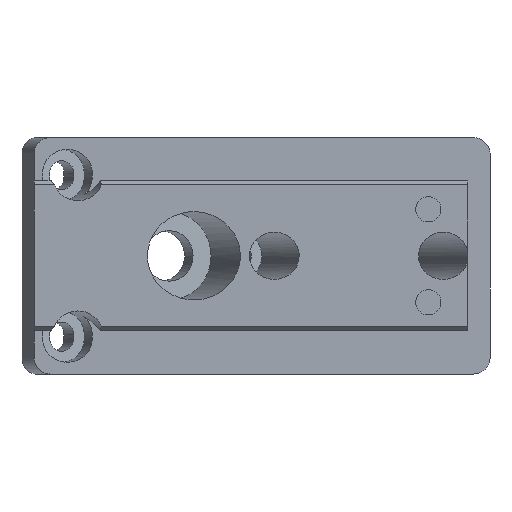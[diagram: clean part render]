
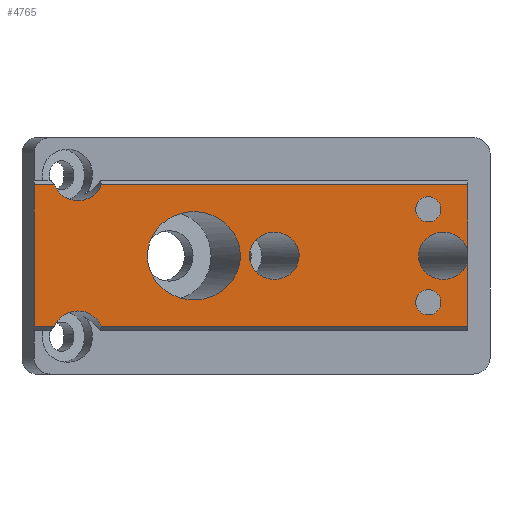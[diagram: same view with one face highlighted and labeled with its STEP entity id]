
A CAD part, top view. The second image highlights one B-rep face of the part: STEP entity #4765.
In plain terms, the highlighted planar face has unit normal (0, 0, 1).
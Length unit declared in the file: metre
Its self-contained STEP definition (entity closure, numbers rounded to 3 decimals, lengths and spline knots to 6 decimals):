
#252=ELLIPSE('',#5069,0.005888,0.0056);
#253=ELLIPSE('',#5070,0.003154,0.003);
#254=ELLIPSE('',#5073,0.003154,0.003);
#255=ELLIPSE('',#5074,0.003154,0.003);
#256=ELLIPSE('',#5075,0.003154,0.003);
#343=CIRCLE('',#5071,0.0016);
#344=CIRCLE('',#5072,0.0016);
#450=ORIENTED_EDGE('',*,*,#1904,.T.);
#451=ORIENTED_EDGE('',*,*,#1905,.T.);
#452=ORIENTED_EDGE('',*,*,#1906,.T.);
#453=ORIENTED_EDGE('',*,*,#1907,.T.);
#454=ORIENTED_EDGE('',*,*,#1908,.F.);
#455=ORIENTED_EDGE('',*,*,#1909,.T.);
#456=ORIENTED_EDGE('',*,*,#1910,.F.);
#457=ORIENTED_EDGE('',*,*,#1911,.T.);
#458=ORIENTED_EDGE('',*,*,#1912,.F.);
#459=ORIENTED_EDGE('',*,*,#1913,.T.);
#460=ORIENTED_EDGE('',*,*,#1914,.T.);
#461=ORIENTED_EDGE('',*,*,#1915,.T.);
#462=ORIENTED_EDGE('',*,*,#1916,.F.);
#463=ORIENTED_EDGE('',*,*,#1917,.T.);
#1904=EDGE_CURVE('',#2631,#2631,#252,.T.);
#1905=EDGE_CURVE('',#2632,#2632,#253,.T.);
#1906=EDGE_CURVE('',#2633,#2633,#343,.T.);
#1907=EDGE_CURVE('',#2634,#2634,#344,.T.);
#1908=EDGE_CURVE('',#2635,#2636,#3101,.T.);
#1909=EDGE_CURVE('',#2635,#2637,#254,.T.);
#1910=EDGE_CURVE('',#2638,#2637,#3102,.T.);
#1911=EDGE_CURVE('',#2638,#2639,#3103,.T.);
#1912=EDGE_CURVE('',#2640,#2639,#255,.F.);
#1913=EDGE_CURVE('',#2640,#2641,#3104,.T.);
#1914=EDGE_CURVE('',#2641,#2642,#3105,.T.);
#1915=EDGE_CURVE('',#2642,#2643,#3106,.T.);
#1916=EDGE_CURVE('',#2644,#2643,#256,.F.);
#1917=EDGE_CURVE('',#2644,#2636,#3107,.T.);
#2631=VERTEX_POINT('',#6494);
#2632=VERTEX_POINT('',#6496);
#2633=VERTEX_POINT('',#6498);
#2634=VERTEX_POINT('',#6500);
#2635=VERTEX_POINT('',#6502);
#2636=VERTEX_POINT('',#6503);
#2637=VERTEX_POINT('',#6505);
#2638=VERTEX_POINT('',#6507);
#2639=VERTEX_POINT('',#6509);
#2640=VERTEX_POINT('',#6511);
#2641=VERTEX_POINT('',#6513);
#2642=VERTEX_POINT('',#6515);
#2643=VERTEX_POINT('',#6517);
#2644=VERTEX_POINT('',#6519);
#3101=LINE('',#6501,#3559);
#3102=LINE('',#6506,#3560);
#3103=LINE('',#6508,#3561);
#3104=LINE('',#6512,#3562);
#3105=LINE('',#6514,#3563);
#3106=LINE('',#6516,#3564);
#3107=LINE('',#6520,#3565);
#3559=VECTOR('',#5424,1.);
#3560=VECTOR('',#5427,1.);
#3561=VECTOR('',#5428,1.);
#3562=VECTOR('',#5431,1.);
#3563=VECTOR('',#5432,1.);
#3564=VECTOR('',#5433,1.);
#3565=VECTOR('',#5436,1.);
#4004=EDGE_LOOP('',(#450));
#4005=EDGE_LOOP('',(#451));
#4006=EDGE_LOOP('',(#452));
#4007=EDGE_LOOP('',(#453));
#4008=EDGE_LOOP('',(#454,#455,#456,#457,#458,#459,#460,#461,#462,#463));
#4316=FACE_BOUND('',#4004,.T.);
#4317=FACE_BOUND('',#4005,.T.);
#4318=FACE_BOUND('',#4006,.T.);
#4319=FACE_BOUND('',#4007,.T.);
#4320=FACE_BOUND('',#4008,.T.);
#4620=PLANE('',#5068);
#4765=ADVANCED_FACE('',(#4316,#4317,#4318,#4319,#4320),#4620,.F.);
#5068=AXIS2_PLACEMENT_3D('',#6492,#5414,#5415);
#5069=AXIS2_PLACEMENT_3D('',#6493,#5416,#5417);
#5070=AXIS2_PLACEMENT_3D('',#6495,#5418,#5419);
#5071=AXIS2_PLACEMENT_3D('',#6497,#5420,#5421);
#5072=AXIS2_PLACEMENT_3D('',#6499,#5422,#5423);
#5073=AXIS2_PLACEMENT_3D('',#6504,#5425,#5426);
#5074=AXIS2_PLACEMENT_3D('',#6510,#5429,#5430);
#5075=AXIS2_PLACEMENT_3D('',#6518,#5434,#5435);
#5414=DIRECTION('',(0.,0.,-1.));
#5415=DIRECTION('',(-1.,0.,0.));
#5416=DIRECTION('',(0.,0.,-1.));
#5417=DIRECTION('',(-1.,0.,0.));
#5418=DIRECTION('',(0.,0.,-1.));
#5419=DIRECTION('',(-1.,0.,0.));
#5420=DIRECTION('',(0.,0.,-1.));
#5421=DIRECTION('',(-1.,0.,0.));
#5422=DIRECTION('',(0.,0.,-1.));
#5423=DIRECTION('',(-1.,0.,0.));
#5424=DIRECTION('',(0.,-1.,0.));
#5425=DIRECTION('',(0.,0.,-1.));
#5426=DIRECTION('',(-1.,0.,0.));
#5427=DIRECTION('',(0.,-1.,0.));
#5428=DIRECTION('',(-1.,0.,0.));
#5429=DIRECTION('',(0.,0.,-1.));
#5430=DIRECTION('',(-1.,0.,0.));
#5431=DIRECTION('',(-1.,0.,0.));
#5432=DIRECTION('',(0.,-1.,0.));
#5433=DIRECTION('',(1.,0.,0.));
#5434=DIRECTION('',(0.,0.,-1.));
#5435=DIRECTION('',(-1.,0.,0.));
#5436=DIRECTION('',(1.,0.,0.));
#6492=CARTESIAN_POINT('',(0.055,0.,0.0041));
#6493=CARTESIAN_POINT('',(0.020258,0.,0.0041));
#6494=CARTESIAN_POINT('',(0.01437,0.,0.0041));
#6495=CARTESIAN_POINT('',(0.030458,0.,0.0041));
#6496=CARTESIAN_POINT('',(0.027303,0.,0.0041));
#6497=CARTESIAN_POINT('',(0.05,0.0059,0.0041));
#6498=CARTESIAN_POINT('',(0.0484,0.0059,0.0041));
#6499=CARTESIAN_POINT('',(0.05,-0.0059,0.0041));
#6500=CARTESIAN_POINT('',(0.0484,-0.0059,0.0041));
#6501=CARTESIAN_POINT('',(0.055,0.,0.0041));
#6502=CARTESIAN_POINT('',(0.055,-0.000591,0.0041));
#6503=CARTESIAN_POINT('',(0.055,-0.009004,0.0041));
#6504=CARTESIAN_POINT('',(0.051908,0.,0.0041));
#6505=CARTESIAN_POINT('',(0.055,0.000591,0.0041));
#6506=CARTESIAN_POINT('',(0.055,0.,0.0041));
#6507=CARTESIAN_POINT('',(0.055,0.009004,0.0041));
#6508=CARTESIAN_POINT('',(0.,0.009004,0.0041));
#6509=CARTESIAN_POINT('',(0.008514,0.009004,0.0041));
#6510=CARTESIAN_POINT('',(0.005538,0.01,0.0041));
#6511=CARTESIAN_POINT('',(0.002562,0.009004,0.0041));
#6512=CARTESIAN_POINT('',(0.,0.009004,0.0041));
#6513=CARTESIAN_POINT('',(0.,0.009004,0.0041));
#6514=CARTESIAN_POINT('',(0.,0.,0.0041));
#6515=CARTESIAN_POINT('',(0.,-0.009004,0.0041));
#6516=CARTESIAN_POINT('',(0.055,-0.009004,0.0041));
#6517=CARTESIAN_POINT('',(0.002562,-0.009004,0.0041));
#6518=CARTESIAN_POINT('',(0.005538,-0.01,0.0041));
#6519=CARTESIAN_POINT('',(0.008514,-0.009004,0.0041));
#6520=CARTESIAN_POINT('',(0.055,-0.009004,0.0041));
